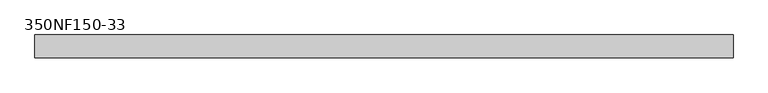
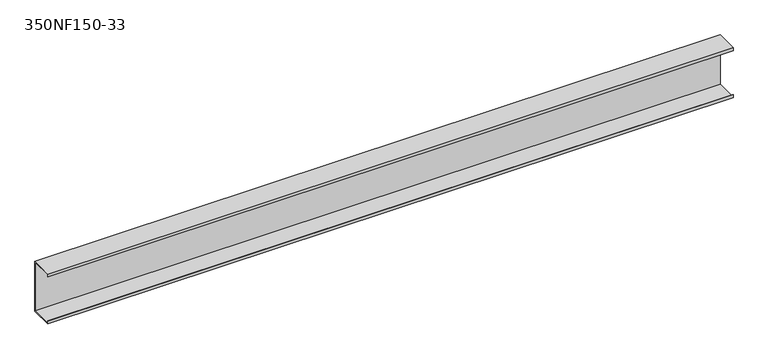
"""IFC4 building model written with IfcOpenShell, lengths in millimetres: beam geometry, BIMSF-SSMA-S : 350NF150-33."""

import ifcopenshell
import ifcopenshell.guid

model = None  # the IFC model being written
_history = None  # IfcOwnerHistory: only IFC2X3 demands one
_inside = {}  # id of a spatial element -> (the spatial element, [elements in it])
_under = {}  # id of a project, library or spatial element -> (it, [spatial elements below it])
_declared = {}  # id of a project -> (the project, [libraries it declares])
_typed = {}  # id of a type object -> (the type object, [elements of that type])
_made_of = {}  # id of a material, layer set ... -> (it, [elements and type objects made of it])


def new_model(schema):
    """Start an empty IFC model of exactly this schema.

    Asked for "IFC4X3", IfcOpenShell would pick the latest addendum, in which some entities
    have other attributes; the version numbers below select the first issue.
    IFC2X3 requires an IfcOwnerHistory on every rooted entity: one is made here for all.
    """
    global model, _history
    if schema == "IFC4X3":
        model = ifcopenshell.file(schema_version=(4, 3, 0, 0))
    else:
        model = ifcopenshell.file(schema=schema)
    _inside.clear()
    _under.clear()
    _declared.clear()
    _typed.clear()
    _made_of.clear()
    _history = None
    if model.schema == "IFC2X3":
        org = make("IfcOrganization", Name="unknown")
        user = make(
            "IfcPersonAndOrganization",
            ThePerson=make("IfcPerson", FamilyName="unknown"),
            TheOrganization=org,
        )
        app = make(
            "IfcApplication",
            ApplicationDeveloper=org,
            Version="unknown",
            ApplicationFullName="unknown",
            ApplicationIdentifier="unknown",
        )
        _history = make(
            "IfcOwnerHistory",
            OwningUser=user,
            OwningApplication=app,
            ChangeAction="ADDED",
            CreationDate=0,
        )
    return model


def make(cls, **values):
    """One entity of the class cls with the attributes given. An attribute that is None is left unset."""
    return model.create_entity(
        cls, **{name: value for name, value in values.items() if value is not None}
    )


def rooted(cls, **values):
    """An entity with a GlobalId (a new one), such as an element, a storey or a relation."""
    return make(cls, GlobalId=ifcopenshell.guid.new(), OwnerHistory=_history, **values)


def si_unit(unit_type, name, prefix=None):
    """IfcSIUnit, for example si_unit("LENGTHUNIT", "METRE", prefix="MILLI")."""
    return make("IfcSIUnit", UnitType=unit_type, Prefix=prefix, Name=name)


def assignment(units):
    """IfcUnitAssignment: the units of a project."""
    return None if units is None else make("IfcUnitAssignment", Units=units)


def point(xyz):
    """IfcCartesianPoint."""
    return None if xyz is None else make("IfcCartesianPoint", Coordinates=xyz)


def direction(xyz):
    """IfcDirection."""
    return None if xyz is None else make("IfcDirection", DirectionRatios=xyz)


def frame(location, z_axis=None, x_axis=None):
    """IfcAxis2Placement3D, a coordinate frame: its origin and axes. An axis left out is left unset."""
    return make(
        "IfcAxis2Placement3D",
        Location=point(location),
        Axis=direction(z_axis),
        RefDirection=direction(x_axis),
    )


def origin():
    """The frame at (0, 0, 0) with its axes left unset."""
    return frame((0.0, 0.0, 0.0))


def place(relative_to, where):
    """IfcLocalPlacement: puts the frame where relative to a parent placement (None: the world)."""
    return make(
        "IfcLocalPlacement", PlacementRelTo=relative_to, RelativePlacement=where
    )


def context(
    kind, dimensions, precision=None, world=None, true_north=None, identifier=None
):
    """IfcGeometricRepresentationContext, for example the 3D "Model" context."""
    return make(
        "IfcGeometricRepresentationContext",
        ContextIdentifier=identifier,
        ContextType=kind,
        CoordinateSpaceDimension=dimensions,
        Precision=precision,
        WorldCoordinateSystem=world,
        TrueNorth=true_north,
    )


def project(units=None, contexts=None):
    """IfcProject with its units and contexts."""
    return rooted(
        "IfcProject",
        Name="project",
        RepresentationContexts=contexts,
        UnitsInContext=assignment(units),
    )


def spatial(cls, under=None, at=None, **own):
    """A site, building, storey or space (cls), placed at a placement, below another one or the project."""
    s = rooted(cls, ObjectPlacement=at, **own)
    if under is not None:
        _under.setdefault(under.id(), (under, []))[1].append(s)
    return s


def polyline(points):
    """IfcPolyline through the points."""
    return make("IfcPolyline", Points=[point(p) for p in points])


def outline(outer, holes=None, kind="AREA"):
    """IfcArbitraryClosedProfileDef: a profile drawn as a closed curve; with holes, ...WithVoids."""
    if holes is None:
        return make("IfcArbitraryClosedProfileDef", ProfileType=kind, OuterCurve=outer)
    return make(
        "IfcArbitraryProfileDefWithVoids",
        ProfileType=kind,
        OuterCurve=outer,
        InnerCurves=holes,
    )


def extrude(swept, where, along, depth):
    """IfcExtrudedAreaSolid: the profile swept, set in the frame where, extruded along a direction by depth."""
    return make(
        "IfcExtrudedAreaSolid",
        SweptArea=swept,
        Position=where,
        ExtrudedDirection=direction(along),
        Depth=depth,
    )


def shape(context_of_items, identifier, shape_type, items):
    """IfcShapeRepresentation: the items that make up one representation, for example the "Body"."""
    return make(
        "IfcShapeRepresentation",
        ContextOfItems=context_of_items,
        RepresentationIdentifier=identifier,
        RepresentationType=shape_type,
        Items=items,
    )


def source(mapping_origin, context_of_items, identifier, shape_type, items):
    """IfcRepresentationMap: a shape defined once, which mapped items show again and again."""
    return make(
        "IfcRepresentationMap",
        MappingOrigin=mapping_origin,
        MappedRepresentation=shape(context_of_items, identifier, shape_type, items),
    )


def transform(
    local_origin,
    x_axis=None,
    y_axis=None,
    z_axis=None,
    scale=None,
    scale2=None,
    scale3=None,
    uniform=True,
):
    """IfcCartesianTransformationOperator3D, or its non-uniform kind. x_axis, y_axis, z_axis: its Axis1, 2, 3."""
    if uniform:
        return make(
            "IfcCartesianTransformationOperator3D",
            Axis1=direction(x_axis),
            Axis2=direction(y_axis),
            LocalOrigin=point(local_origin),
            Scale=scale,
            Axis3=direction(z_axis),
        )
    return make(
        "IfcCartesianTransformationOperator3DnonUniform",
        Axis1=direction(x_axis),
        Axis2=direction(y_axis),
        LocalOrigin=point(local_origin),
        Scale=scale,
        Axis3=direction(z_axis),
        Scale2=scale2,
        Scale3=scale3,
    )


def mapped(mapping_source, mapping_target):
    """IfcMappedItem: shows the shape of a source again, moved by a transform."""
    return make(
        "IfcMappedItem", MappingSource=mapping_source, MappingTarget=mapping_target
    )


def made_of(thing, what):
    """Note that an element or type object is made of a material, layer set ...; save() writes the relation."""
    if what is not None:
        _made_of.setdefault(what.id(), (what, []))[1].append(thing)
    return thing


def element(
    cls,
    number,
    at=None,
    inside=None,
    cuts=None,
    type_object=None,
    material=None,
    context=None,
    identifier="Body",
    shape_type=None,
    held_by="IfcProductDefinitionShape",
    body=None,
    shapes=None,
    **own,
):
    """One element of the class cls, such as IfcWall. Its Tag is "e" and its number.

    at: its placement. inside: the storey or other place that contains it. cuts: it is an
    opening in that element (IfcRelVoidsElement). A single representation is given by context,
    identifier, shape_type and body (its items); several are given by shapes. held_by: the class
    of the entity that holds the representations. save() writes the other relations.
    """
    e = rooted(cls, Tag="e%d" % number, ObjectPlacement=at, **own)
    if body is not None:
        shapes = [shape(context, identifier, shape_type, body)]
    if shapes is not None:
        e.Representation = make(held_by, Representations=shapes)
    if inside is not None:
        _inside.setdefault(inside.id(), (inside, []))[1].append(e)
    if cuts is not None:
        rooted(
            "IfcRelVoidsElement", RelatingBuildingElement=cuts, RelatedOpeningElement=e
        )
    if type_object is not None:
        _typed.setdefault(type_object.id(), (type_object, []))[1].append(e)
    return made_of(e, material)


def aggregate(whole, parts):
    """IfcRelAggregates: a whole, such as a stair, and the parts it consists of."""
    return rooted("IfcRelAggregates", RelatingObject=whole, RelatedObjects=parts)


def save(model, path):
    """Write the relations noted so far, then the file.

    IfcRelAggregates (storeys below a building ...), IfcRelContainedInSpatialStructure (elements
    in a storey), IfcRelDefinesByType, IfcRelAssociatesMaterial and IfcRelDeclares: one each for
    every whole, place, type object, material and project.
    """
    for whole, parts in _under.values():
        aggregate(whole, parts)
    for where, things in _inside.values():
        rooted(
            "IfcRelContainedInSpatialStructure",
            RelatedElements=things,
            RelatingStructure=where,
        )
    for kind, things in _typed.values():
        rooted("IfcRelDefinesByType", RelatedObjects=things, RelatingType=kind)
    for what, things in _made_of.values():
        rooted("IfcRelAssociatesMaterial", RelatedObjects=things, RelatingMaterial=what)
    for by, libraries in _declared.values():
        rooted("IfcRelDeclares", RelatingContext=by, RelatedDefinitions=libraries)
    model.write(path)


def beam_350nf150_33_eeb0c6a2(model_context):
    return source(origin(), model_context, "Body", "SweptSolid", [
        extrude(outline(polyline([(19.05, 44.45), (19.05, -44.45), (-19.05, -44.45), (-19.05, -39.6748), (-18.1676842, -39.6748), (-18.1676842, -43.5676842), (18.1676842, -43.5676842), (18.1676842, 43.5676842), (-18.1676842, 43.5676842), (-18.1676842, 39.6748), (-19.05, 39.6748), (-19.05, 44.45), (19.05, 44.45)])), frame((-579.3582695, 0.0, 0.0), z_axis=(1.0, 0.0, 0.0), x_axis=(0.0, 1.0, 0.0)), (0.0, 0.0, 1.0), 1158.716539),
    ])


if __name__ == "__main__":
    model = new_model("IFC4")
    model_context = context("Model", 3, world=origin())
    ifc_project = project(units=[si_unit("LENGTHUNIT", "METRE", prefix="MILLI")], contexts=[model_context])
    site = spatial("IfcSite", under=ifc_project)
    building = spatial("IfcBuilding", under=site)
    placement = place(None, origin())
    beam_350nf150_33_shape = beam_350nf150_33_eeb0c6a2(model_context)
    element("IfcBeam", 1, ObjectType="BIMSF-SSMA-S : 350NF150-33", at=placement, inside=building, context=model_context, shape_type="MappedRepresentation", body=[
        mapped(beam_350nf150_33_shape, transform((0.0, 0.0, 0.0), x_axis=(1.0, 0.0, 0.0), y_axis=(0.0, 1.0, 0.0), z_axis=(0.0, 0.0, 1.0))),
    ])
    save(model, "model.ifc")
